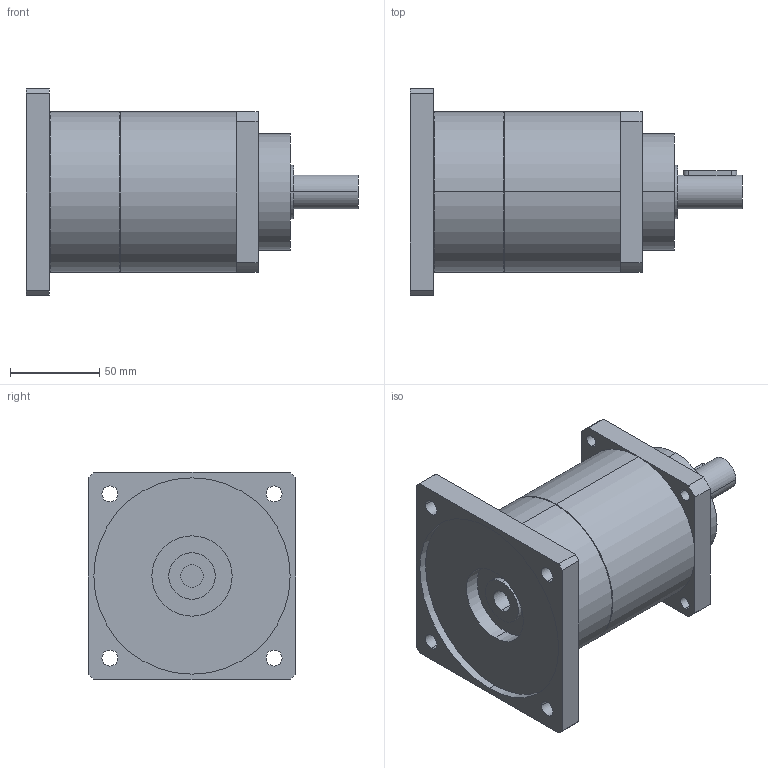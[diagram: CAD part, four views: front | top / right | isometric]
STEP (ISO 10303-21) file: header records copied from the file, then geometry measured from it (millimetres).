
FILE_DESCRIPTION(('CoCreate Modeling STEP Export'),'2;1');
FILE_NAME('GPT90_ig-9-12-16-20-25-28-35-40-50-70-100_19_B5T_12.7_P08.stp','2015-02-04T11:27:27',(''),(''),'CoCreate Modeling STEP processor for AP214 (Solid Model)','CoCreate Modeling 16.00C 25-Feb-2009 (C) Parametric Technology GmbH','');
FILE_SCHEMA(('AUTOMOTIVE_DESIGN { 1 0 10303 214 1 1 1 1 }'));
Length unit declared in the file: millimetre
Products named in the file (2): GPT90_ig-9-12-16-20-25-28-35-40-50-70-100_19_B5T_12.7_P08
Assembly tree (1 placements, depth 2):
  GPT90_ig-9-12-16-20-25-28-35-40-50-70-100_19_B5T_12.7_P08
    GPT90_ig-9-12-16-20-25-28-35-40-50-70-100_19_B5T_12.7_P08
Bounding box: 186 x 116 x 116 mm (x, y, z)
Volume: 946249.6 mm3; surface area: 83059.9 mm2
Topology: 1 solids, 1 shells, 77 faces, 206 edges, 141 vertices
Faces by surface type: cylinder 46, plane 27, cone 4
Entity records: 2596 total; most frequent: CARTESIAN_POINT 742, ORIENTED_EDGE 412, DIRECTION 324, EDGE_CURVE 206, VERTEX_POINT 141, AXIS2_PLACEMENT_3D 120, EDGE_LOOP 103, VECTOR 84
